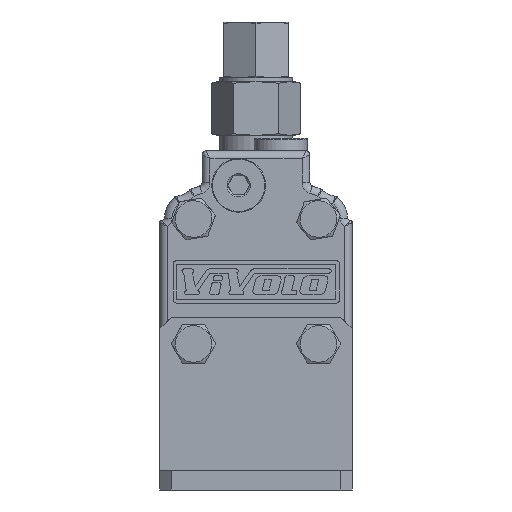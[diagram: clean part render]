
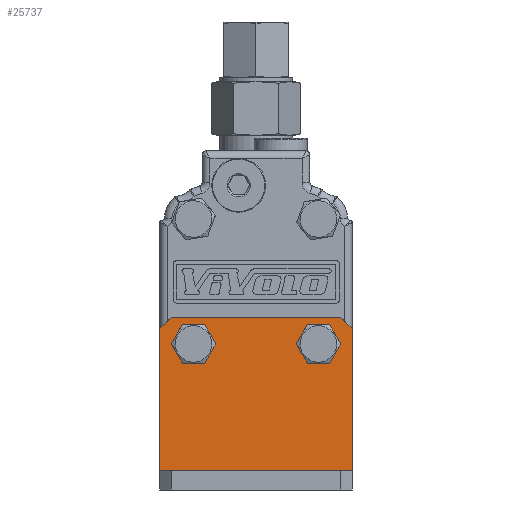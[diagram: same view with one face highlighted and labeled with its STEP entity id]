
A CAD part, front view. The second image highlights one B-rep face of the part: STEP entity #25737.
In plain terms, the highlighted planar face has unit normal (0, -1, 0).
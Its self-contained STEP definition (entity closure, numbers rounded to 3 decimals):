
#791=CIRCLE('',#26928,5.);
#792=CIRCLE('',#26930,5.);
#2924=ORIENTED_EDGE('',*,*,#7846,.T.);
#2925=ORIENTED_EDGE('',*,*,#7910,.T.);
#2926=ORIENTED_EDGE('',*,*,#7911,.T.);
#2927=ORIENTED_EDGE('',*,*,#7912,.F.);
#2928=ORIENTED_EDGE('',*,*,#7902,.F.);
#2929=ORIENTED_EDGE('',*,*,#7913,.T.);
#2930=ORIENTED_EDGE('',*,*,#7914,.T.);
#2931=ORIENTED_EDGE('',*,*,#7845,.T.);
#7845=EDGE_CURVE('',#10431,#10431,#791,.T.);
#7846=EDGE_CURVE('',#10432,#10432,#792,.T.);
#7902=EDGE_CURVE('',#10467,#10468,#12257,.T.);
#7910=EDGE_CURVE('',#10469,#10470,#12259,.T.);
#7911=EDGE_CURVE('',#10470,#10471,#12260,.T.);
#7912=EDGE_CURVE('',#10468,#10471,#12261,.T.);
#7913=EDGE_CURVE('',#10467,#10472,#12262,.T.);
#7914=EDGE_CURVE('',#10472,#10469,#12263,.F.);
#10431=VERTEX_POINT('',#36413);
#10432=VERTEX_POINT('',#36416);
#10467=VERTEX_POINT('',#36530);
#10468=VERTEX_POINT('',#36532);
#10469=VERTEX_POINT('',#36548);
#10470=VERTEX_POINT('',#36549);
#10471=VERTEX_POINT('',#36551);
#10472=VERTEX_POINT('',#36554);
#12257=LINE('',#36531,#13755);
#12259=LINE('',#36547,#13757);
#12260=LINE('',#36550,#13758);
#12261=LINE('',#36552,#13759);
#12262=LINE('',#36553,#13760);
#12263=LINE('',#36555,#13761);
#13755=VECTOR('',#29773,1000.);
#13757=VECTOR('',#29801,1000.);
#13758=VECTOR('',#29802,1000.);
#13759=VECTOR('',#29803,1000.);
#13760=VECTOR('',#29804,1000.);
#13761=VECTOR('',#29805,1000.);
#15125=EDGE_LOOP('',(#2924));
#15126=EDGE_LOOP('',(#2925,#2926,#2927,#2928,#2929,#2930));
#15127=EDGE_LOOP('',(#2931));
#16353=FACE_BOUND('',#15125,.T.);
#16354=FACE_BOUND('',#15126,.T.);
#16355=FACE_BOUND('',#15127,.T.);
#17494=PLANE('',#26973);
#25737=ADVANCED_FACE('',(#16353,#16354,#16355),#17494,.T.);
#26928=AXIS2_PLACEMENT_3D('',#36412,#29658,#29659);
#26930=AXIS2_PLACEMENT_3D('',#36415,#29662,#29663);
#26973=AXIS2_PLACEMENT_3D('',#36546,#29799,#29800);
#29658=DIRECTION('',(0.,1.,0.));
#29659=DIRECTION('',(-1.,0.,0.));
#29662=DIRECTION('',(0.,1.,0.));
#29663=DIRECTION('',(-1.,0.,0.));
#29773=DIRECTION('',(-1.,0.,0.));
#29799=DIRECTION('',(0.,-1.,0.));
#29800=DIRECTION('',(0.,0.,1.));
#29801=DIRECTION('',(-1.,0.,0.));
#29802=DIRECTION('',(-0.707,0.,-0.707));
#29803=DIRECTION('',(0.,0.,1.));
#29804=DIRECTION('',(0.,0.,1.));
#29805=DIRECTION('',(0.707,0.,-0.707));
#36412=CARTESIAN_POINT('',(-16.25,-5.,-16.25));
#36413=CARTESIAN_POINT('',(-21.25,-5.,-16.25));
#36415=CARTESIAN_POINT('',(16.25,-5.,-16.25));
#36416=CARTESIAN_POINT('',(11.25,-5.,-16.25));
#36530=CARTESIAN_POINT('',(25.,-5.,-49.25));
#36531=CARTESIAN_POINT('',(25.,-5.,-49.25));
#36532=CARTESIAN_POINT('',(-25.,-5.,-49.25));
#36546=CARTESIAN_POINT('',(25.,-5.,-49.25));
#36547=CARTESIAN_POINT('',(25.,-5.,-9.25));
#36548=CARTESIAN_POINT('',(22.,-5.,-9.25));
#36549=CARTESIAN_POINT('',(-22.,-5.,-9.25));
#36550=CARTESIAN_POINT('',(-18.5,-5.,-5.75));
#36551=CARTESIAN_POINT('',(-25.,-5.,-12.25));
#36552=CARTESIAN_POINT('',(-25.,-5.,-49.25));
#36553=CARTESIAN_POINT('',(25.,-5.,-49.25));
#36554=CARTESIAN_POINT('',(25.,-5.,-12.25));
#36555=CARTESIAN_POINT('',(43.5,-5.,-30.75));
